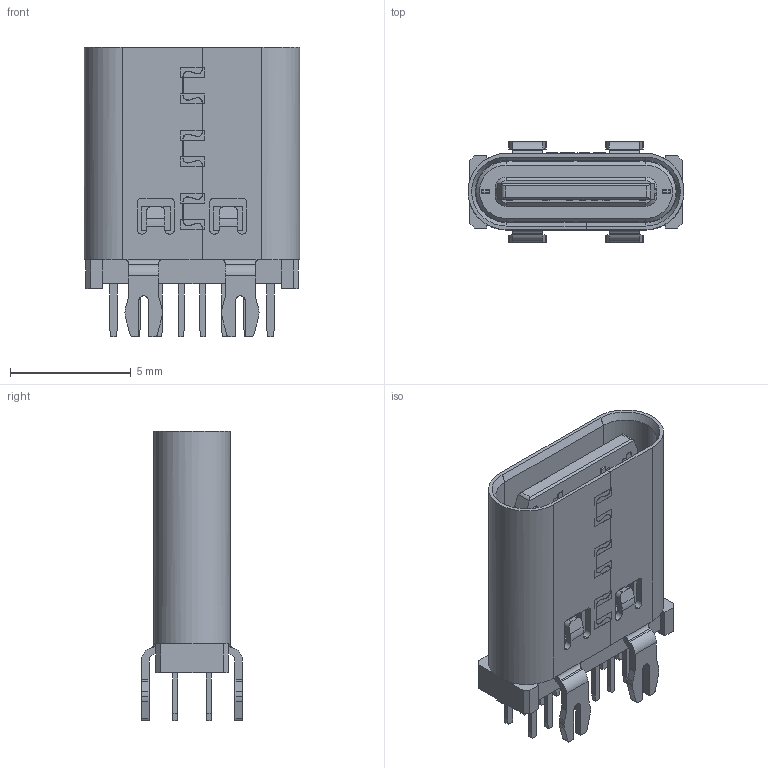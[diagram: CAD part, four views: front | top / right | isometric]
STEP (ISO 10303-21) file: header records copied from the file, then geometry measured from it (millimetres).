
FILE_DESCRIPTION (( 'STEP AP203' ), '1' );
FILE_NAME ('U5079-14PNY1.2D10.0L.STEP', '2026-09-21T03:24:33', ( '' ), ( '' ), 'SwSTEP 2.0', 'SolidWorks 2024', '' );
FILE_SCHEMA (( 'CONFIG_CONTROL_DESIGN' ));
Length unit declared in the file: millimetre
Products named in the file (1): U5079-14PNY1.2D10.0L
Bounding box: 8.94 x 4.16 x 12 mm (x, y, z)
Volume: 181.9 mm3; surface area: 660.8 mm2
Topology: 1 solids, 1 shells, 786 faces, 2213 edges, 1446 vertices
Faces by surface type: plane 575, cylinder 166, bspline 25, cone 20
Entity records: 26771 total; most frequent: CARTESIAN_POINT 6312, ORIENTED_EDGE 4426, DIRECTION 3974, EDGE_CURVE 2213, VECTOR 1780, LINE 1780, VERTEX_POINT 1446, AXIS2_PLACEMENT_3D 1097
